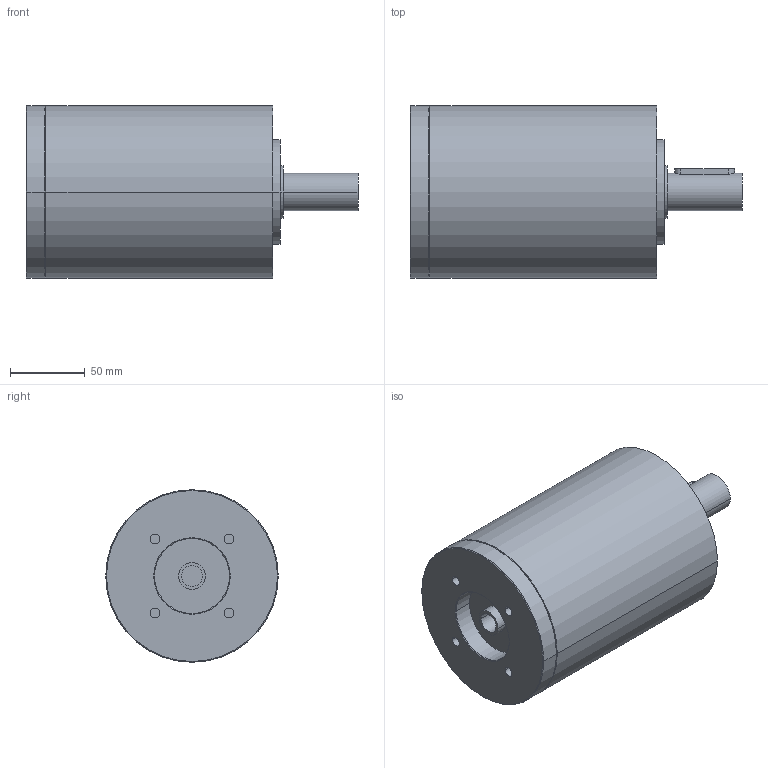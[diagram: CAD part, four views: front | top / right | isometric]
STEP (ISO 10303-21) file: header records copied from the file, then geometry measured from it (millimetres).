
FILE_DESCRIPTION(('CoCreate Modeling STEP Export'),'2;1');
FILE_NAME('GPR125_ig-9-12-16-20-28-35_25_B14_14_P14.stp','2014-08-26T14:09:43',(''),(''),'CoCreate Modeling STEP processor for AP214 (Solid Model)','CoCreate Modeling 16.00C 25-Feb-2009 (C) Parametric Technology GmbH','');
FILE_SCHEMA(('AUTOMOTIVE_DESIGN { 1 0 10303 214 1 1 1 1 }'));
Length unit declared in the file: millimetre
Products named in the file (2): GPR125_ig-9-12-16-20-28-35_25_B14_14_P14
Assembly tree (1 placements, depth 2):
  GPR125_ig-9-12-16-20-28-35_25_B14_14_P14
    GPR125_ig-9-12-16-20-28-35_25_B14_14_P14
Bounding box: 221.4 x 115 x 115 mm (x, y, z)
Volume: 1717674.5 mm3; surface area: 93939.9 mm2
Topology: 1 solids, 1 shells, 78 faces, 192 edges, 134 vertices
Faces by surface type: cylinder 44, plane 24, cone 10
Entity records: 1955 total; most frequent: ORIENTED_EDGE 380, CARTESIAN_POINT 360, DIRECTION 256, EDGE_CURVE 190, VERTEX_POINT 134, AXIS2_PLACEMENT_3D 98, EDGE_LOOP 98, FACE_OUTER_BOUND 78
